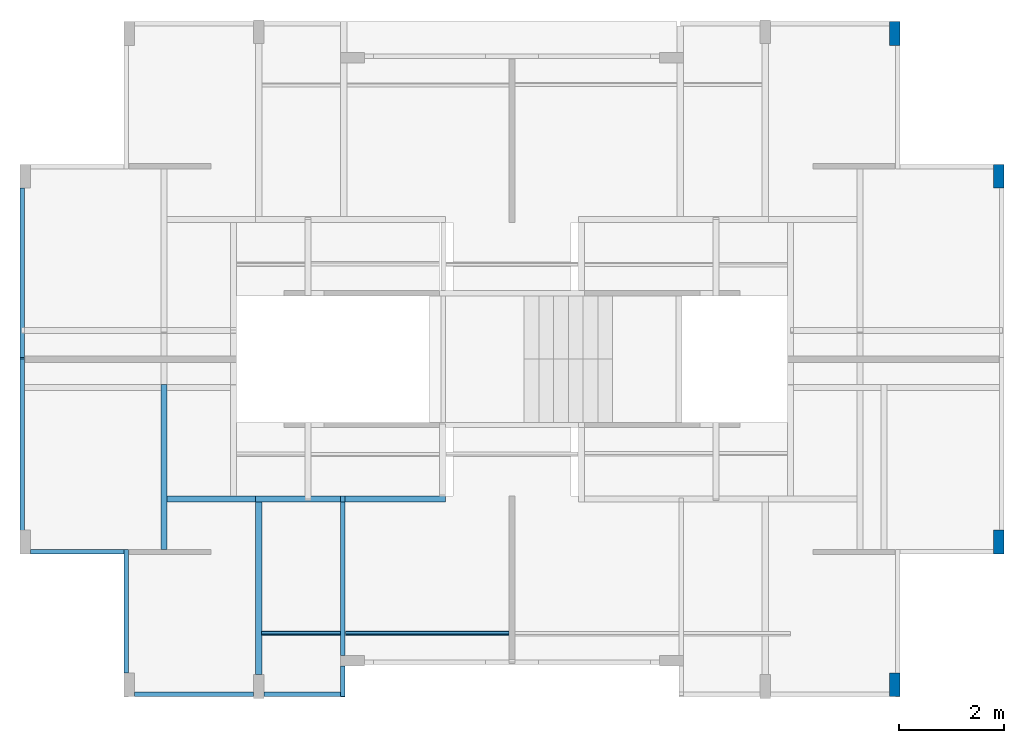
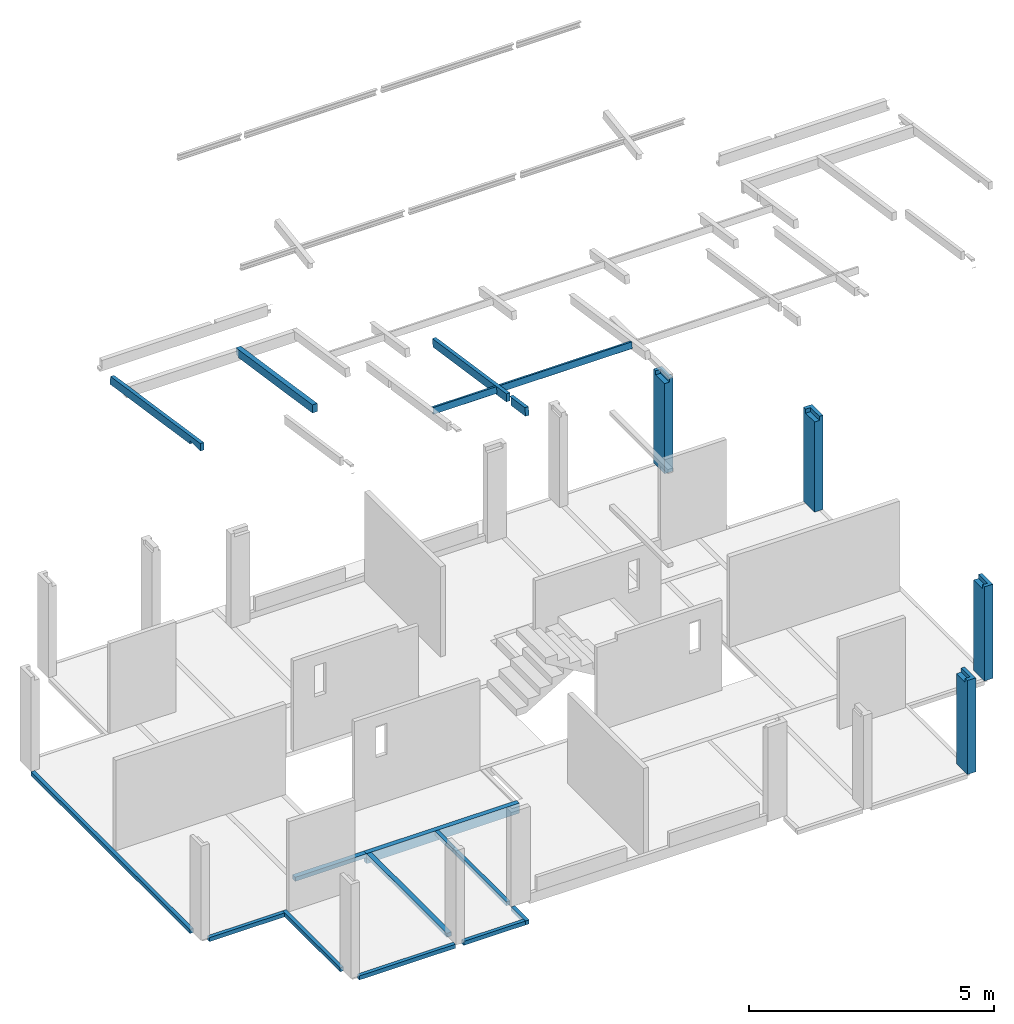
# One storey, part 1 of 9: 13 beams, 4 columns.
"""IFC4 building model written with IfcOpenShell, lengths in metres."""

from ifc_helpers import new_model, entity, si_unit, converted_unit, derived_unit, direction, frame, origin, place, context, subcontext, project, spatial, line, arc, indexed_curve, outline, extrude, polygons, source, transform, mapped, material, type_object, type_shapes, element, save


model = new_model("IFC4")

# Units and contexts
model_context = context("Model", 3, precision=1e-05, world=origin(), true_north=direction((6.123031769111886e-17, 1.0)))
body_context = subcontext(model_context, "Body", "Model", "MODEL_VIEW")
ifc_project = project(units=[si_unit("LENGTHUNIT", "METRE"), si_unit("AREAUNIT", "SQUARE_METRE"), si_unit("VOLUMEUNIT", "CUBIC_METRE"), converted_unit("PLANEANGLEUNIT", "DEGREE", entity("IfcRatioMeasure", 0.017453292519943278), si_unit("PLANEANGLEUNIT", "RADIAN"), dimensions=[0, 0, 0, 0, 0, 0, 0]), si_unit("MASSUNIT", "GRAM", prefix="KILO"), derived_unit("MASSDENSITYUNIT", [(si_unit("MASSUNIT", "GRAM", prefix="KILO"), 1), (si_unit("LENGTHUNIT", "METRE"), -3)]), derived_unit("IONCONCENTRATIONUNIT", [(si_unit("MASSUNIT", "GRAM", prefix="KILO"), 1), (si_unit("LENGTHUNIT", "METRE"), -3)]), derived_unit("MOMENTOFINERTIAUNIT", [(si_unit("LENGTHUNIT", "METRE"), 4)]), si_unit("TIMEUNIT", "SECOND"), si_unit("FREQUENCYUNIT", "HERTZ"), si_unit("THERMODYNAMICTEMPERATUREUNIT", "DEGREE_CELSIUS"), derived_unit("THERMALTRANSMITTANCEUNIT", [(si_unit("MASSUNIT", "GRAM", prefix="KILO"), 1), (si_unit("THERMODYNAMICTEMPERATUREUNIT", "KELVIN"), -1), (si_unit("TIMEUNIT", "SECOND"), -3)]), derived_unit("THERMALCONDUCTANCEUNIT", [(si_unit("MASSUNIT", "GRAM", prefix="KILO"), 1), (si_unit("THERMODYNAMICTEMPERATUREUNIT", "KELVIN"), -1), (si_unit("TIMEUNIT", "SECOND"), -3), (si_unit("LENGTHUNIT", "METRE"), 1)]), derived_unit("VOLUMETRICFLOWRATEUNIT", [(si_unit("LENGTHUNIT", "METRE"), 3), (si_unit("TIMEUNIT", "SECOND"), -1)]), derived_unit("MASSFLOWRATEUNIT", [(si_unit("MASSUNIT", "GRAM", prefix="KILO"), 1), (si_unit("TIMEUNIT", "SECOND"), -1)]), derived_unit("ROTATIONALFREQUENCYUNIT", [(si_unit("TIMEUNIT", "SECOND"), -1)]), si_unit("ELECTRICCURRENTUNIT", "AMPERE"), si_unit("ELECTRICVOLTAGEUNIT", "VOLT"), si_unit("POWERUNIT", "WATT"), si_unit("FORCEUNIT", "NEWTON", prefix="KILO"), si_unit("ILLUMINANCEUNIT", "LUX"), si_unit("LUMINOUSFLUXUNIT", "LUMEN"), si_unit("LUMINOUSINTENSITYUNIT", "CANDELA"), derived_unit("USERDEFINED", [(si_unit("MASSUNIT", "GRAM", prefix="KILO"), -1), (si_unit("LENGTHUNIT", "METRE"), -2), (si_unit("TIMEUNIT", "SECOND"), 3), (si_unit("LUMINOUSFLUXUNIT", "LUMEN"), 1)]), derived_unit("USERDEFINED", [(si_unit("MASSUNIT", "GRAM", prefix="KILO"), 1), (si_unit("TIMEUNIT", "SECOND"), -3), (si_unit("LENGTHUNIT", "METRE"), 3), (si_unit("ELECTRICCURRENTUNIT", "AMPERE"), -2)]), derived_unit("SOUNDPOWERUNIT", [(si_unit("MASSUNIT", "GRAM", prefix="KILO"), 1), (si_unit("TIMEUNIT", "SECOND"), -3), (si_unit("LENGTHUNIT", "METRE"), 2)]), derived_unit("SOUNDPRESSUREUNIT", [(si_unit("MASSUNIT", "GRAM", prefix="KILO"), 1), (si_unit("LENGTHUNIT", "METRE"), -1), (si_unit("TIMEUNIT", "SECOND"), -2)]), derived_unit("LINEARVELOCITYUNIT", [(si_unit("LENGTHUNIT", "METRE"), 1), (si_unit("TIMEUNIT", "SECOND"), -1)]), si_unit("PRESSUREUNIT", "PASCAL"), derived_unit("USERDEFINED", [(si_unit("MASSUNIT", "GRAM", prefix="KILO"), 1), (si_unit("LENGTHUNIT", "METRE"), -2), (si_unit("TIMEUNIT", "SECOND"), -2)]), derived_unit("LINEARFORCEUNIT", [(si_unit("MASSUNIT", "GRAM", prefix="KILO"), 1), (si_unit("TIMEUNIT", "SECOND"), -2)]), derived_unit("PLANARFORCEUNIT", [(si_unit("MASSUNIT", "GRAM", prefix="KILO"), 1), (si_unit("LENGTHUNIT", "METRE"), -1), (si_unit("TIMEUNIT", "SECOND"), -2)]), derived_unit("SPECIFICHEATCAPACITYUNIT", [(si_unit("THERMODYNAMICTEMPERATUREUNIT", "KELVIN"), -1), (si_unit("LENGTHUNIT", "METRE"), 2), (si_unit("TIMEUNIT", "SECOND"), -2)]), derived_unit("HEATINGVALUEUNIT", [(si_unit("LENGTHUNIT", "METRE"), 2), (si_unit("TIMEUNIT", "SECOND"), -2)]), derived_unit("VAPORPERMEABILITYUNIT", [(si_unit("LENGTHUNIT", "METRE"), -1), (si_unit("TIMEUNIT", "SECOND"), 1)]), derived_unit("DYNAMICVISCOSITYUNIT", [(si_unit("MASSUNIT", "GRAM", prefix="KILO"), 1), (si_unit("TIMEUNIT", "SECOND"), -1), (si_unit("LENGTHUNIT", "METRE"), -1)]), derived_unit("THERMALEXPANSIONCOEFFICIENTUNIT", [(si_unit("THERMODYNAMICTEMPERATUREUNIT", "KELVIN"), -1)]), derived_unit("MODULUSOFELASTICITYUNIT", [(si_unit("MASSUNIT", "GRAM", prefix="KILO"), 1), (si_unit("LENGTHUNIT", "METRE"), -1), (si_unit("TIMEUNIT", "SECOND"), -2)]), derived_unit("ISOTHERMALMOISTURECAPACITYUNIT", [(si_unit("LENGTHUNIT", "METRE"), 3), (si_unit("MASSUNIT", "GRAM", prefix="KILO"), -1)]), derived_unit("MOISTUREDIFFUSIVITYUNIT", [(si_unit("TIMEUNIT", "SECOND"), -1), (si_unit("LENGTHUNIT", "METRE"), 2)])], contexts=[model_context])

# Site, building, storey
site_placement = place(None, origin())
site = spatial("IfcSite", under=ifc_project, at=site_placement, Name="Default", CompositionType="ELEMENT")
building_placement = place(site_placement, origin())
building = spatial("IfcBuilding", under=site, at=building_placement, Name="Las nubes", CompositionType="ELEMENT")
storey_placement = place(building_placement, frame((0.0, 0.0, 2.3500000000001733)))
storey = spatial("IfcBuildingStorey", under=building, at=storey_placement, Name="PISO 2", CompositionType="ELEMENT", Elevation=2.3500000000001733)

# Columns
ifc_material_1 = material(Name="Concrete, Cast-in-Place gray", Category="Materials")
column_type_1 = type_object("IfcColumnType", Name="M_Concrete-Rectangular-Column:300 x 450mm", PredefinedType="COLUMN", material=ifc_material_1)
shared_shape_1 = source(origin(), body_context, "Body", "Tessellation", [
    polygons([(-2.1657342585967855e-15, 5.414335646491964e-16, -5.414335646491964e-16), (-2.1657342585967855e-15, 0.45000000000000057, -5.414335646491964e-16), (0.19999999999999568, 0.45000000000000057, -5.414335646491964e-16), (0.19999999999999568, 5.414335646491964e-16, -5.414335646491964e-16), (-2.1657342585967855e-15, 5.414335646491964e-16, 2.2500000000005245), (-2.1657342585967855e-15, 0.36499999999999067, 2.2500000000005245), (-2.1657342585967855e-15, 0.36499999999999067, 2.350000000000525), (-2.1657342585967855e-15, 0.45000000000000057, 2.350000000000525), (0.19999999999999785, 5.414335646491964e-16, 2.2500000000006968), (0.19999999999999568, 5.414335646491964e-16, 2.350000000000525), (0.11499999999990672, 5.414335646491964e-16, 2.350000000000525), (0.11499999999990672, 5.414335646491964e-16, 2.2500000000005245), (0.19999999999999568, 0.45000000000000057, 2.350000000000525), (0.11499999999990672, 0.36499999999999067, 2.350000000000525), (0.11499999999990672, 0.36499999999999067, 2.2500000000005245)], [[[1, 2, 3, 4]], [[2, 1, 5, 6, 7, 8]], [[1, 4, 9, 10, 11, 12, 5]], [[4, 3, 13, 10, 9]], [[3, 2, 8, 13]], [[10, 13, 8, 7, 14, 11]], [[12, 15, 6, 5]], [[14, 15, 12, 11]], [[15, 14, 7, 6]]], closed=True),
])
type_shapes(column_type_1, [shared_shape_1])
column_1_placement = place(storey_placement, frame((18.472500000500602, -3.175000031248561, 0.0)))
element("IfcColumn", 1, at=column_1_placement, inside=storey, type_object=column_type_1, material=ifc_material_1, Name="M_Concrete-Rectangular-Column:300 x 450mm", ObjectType="M_Concrete-Rectangular-Column:300 x 450mm", PredefinedType="COLUMN", context=body_context, shape_type="MappedRepresentation", body=[
    mapped(shared_shape_1, transform((0.0, 0.0, 0.0), scale=1.0)),
])
column_type_2 = type_object("IfcColumnType", Name="M_Concrete-Rectangular-Column:300 x 450mm", PredefinedType="COLUMN", material=ifc_material_1)
shared_shape_2 = source(origin(), body_context, "Body", "Tessellation", [
    polygons([(0.0, 0.0, -5.414335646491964e-16), (0.0, 0.45, -5.414335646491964e-16), (0.2, 0.45, -5.414335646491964e-16), (0.2, 0.0, -5.414335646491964e-16), (0.0, 0.0, 2.2500000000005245), (0.0, 0.3649999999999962, 2.2500000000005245), (0.0, 0.36499999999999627, 2.350000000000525), (0.0, 0.45, 2.350000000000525), (0.2, 0.0, 2.2500000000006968), (0.2, 0.0, 2.350000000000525), (0.11499999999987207, 0.0, 2.350000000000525), (0.11499999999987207, 0.0, 2.2500000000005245), (0.2, 0.45, 2.350000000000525), (0.11499999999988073, 0.3649999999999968, 2.350000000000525), (0.11499999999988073, 0.3649999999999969, 2.2500000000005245)], [[[1, 2, 3, 4]], [[2, 1, 5, 6, 7, 8]], [[1, 4, 9, 10, 11, 12, 5]], [[4, 3, 13, 10, 9]], [[3, 2, 8, 13]], [[10, 13, 8, 7, 14, 11]], [[15, 6, 5, 12]], [[15, 14, 7, 6]], [[14, 15, 12, 11]]], closed=True),
])
type_shapes(column_type_2, [shared_shape_2])
column_2_placement = place(storey_placement, frame((16.497500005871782, -0.46000002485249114, 0.0)))
element("IfcColumn", 2, at=column_2_placement, inside=storey, type_object=column_type_2, material=ifc_material_1, Name="M_Concrete-Rectangular-Column:300 x 450mm", ObjectType="M_Concrete-Rectangular-Column:300 x 450mm", PredefinedType="COLUMN", context=body_context, shape_type="MappedRepresentation", body=[
    mapped(shared_shape_2, transform((0.0, 0.0, 0.0), scale=1.0)),
])
column_type_3 = type_object("IfcColumnType", Name="M_Concrete-Rectangular-Column:300 x 450mm", PredefinedType="COLUMN", material=ifc_material_1)
shared_shape_3 = source(origin(), body_context, "Body", "Tessellation", [
    polygons([(2.1657342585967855e-15, 2.1657342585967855e-15, -5.414335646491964e-16), (6.497202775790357e-15, 0.4500000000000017, -5.414335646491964e-16), (0.20000000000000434, 0.45000000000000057, -5.414335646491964e-16), (0.20000000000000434, 0.0, -5.414335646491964e-16), (2.1657342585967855e-15, 2.1657342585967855e-15, 2.350000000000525), (2.1657342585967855e-15, 0.08500000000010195, 2.350000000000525), (2.1657342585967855e-15, 0.08500000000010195, 2.2500000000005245), (6.497202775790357e-15, 0.4500000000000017, 2.2500000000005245), (0.11499999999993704, 0.4500000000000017, 2.2500000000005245), (0.11499999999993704, 0.4500000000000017, 2.350000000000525), (0.2000000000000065, 0.4499999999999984, 2.350000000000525), (0.2000000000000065, 0.45000000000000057, 2.2500000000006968), (0.20000000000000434, 0.0, 2.350000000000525), (0.11499999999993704, 0.08500000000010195, 2.350000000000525), (0.11499999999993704, 0.08500000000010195, 2.2500000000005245)], [[[1, 2, 3, 4]], [[2, 1, 5, 6, 7, 8]], [[3, 2, 8, 9, 10, 11, 12]], [[4, 3, 12, 11, 13]], [[1, 4, 13, 5]], [[13, 11, 10, 14, 6, 5]], [[7, 15, 9, 8]], [[14, 15, 7, 6]], [[15, 14, 10, 9]]], closed=True),
])
type_shapes(column_type_3, [shared_shape_3])
column_3_placement = place(storey_placement, frame((18.472500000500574, -10.125000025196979, 0.0)))
element("IfcColumn", 3, at=column_3_placement, inside=storey, type_object=column_type_3, material=ifc_material_1, Name="M_Concrete-Rectangular-Column:300 x 450mm", ObjectType="M_Concrete-Rectangular-Column:300 x 450mm", PredefinedType="COLUMN", context=body_context, shape_type="MappedRepresentation", body=[
    mapped(shared_shape_3, transform((0.0, 0.0, 0.0), scale=1.0)),
])
column_type_4 = type_object("IfcColumnType", Name="M_Concrete-Rectangular-Column:300 x 450mm", PredefinedType="COLUMN", material=ifc_material_1)
shared_shape_4 = source(origin(), body_context, "Body", "Tessellation", [
    polygons([(0.0, 0.0, -5.414335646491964e-16), (2.1657342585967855e-15, 0.4499999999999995, -5.414335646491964e-16), (0.20000000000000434, 0.4499999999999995, -5.414335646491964e-16), (0.2, -2.1657342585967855e-15, -5.414335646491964e-16), (0.0, 0.0, 2.350000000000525), (0.0, 0.08500000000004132, 2.350000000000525), (2.1657342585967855e-15, 0.08500000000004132, 2.2500000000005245), (6.497202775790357e-15, 0.4499999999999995, 2.2500000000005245), (0.11499999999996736, 0.4499999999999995, 2.2500000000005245), (0.11499999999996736, 0.4499999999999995, 2.350000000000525), (0.2, 0.44999999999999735, 2.350000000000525), (0.20000000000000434, 0.4499999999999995, 2.2500000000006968), (0.2, -2.1657342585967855e-15, 2.350000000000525), (0.11499999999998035, 0.08500000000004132, 2.350000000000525), (0.11499999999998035, 0.08500000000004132, 2.2500000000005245)], [[[1, 2, 3, 4]], [[2, 1, 5, 6, 7, 8]], [[3, 2, 8, 9, 10, 11, 12]], [[4, 3, 12, 11, 13]], [[1, 4, 13, 5]], [[13, 11, 10, 14, 6, 5]], [[15, 9, 8, 7]], [[14, 15, 7, 6]], [[15, 14, 10, 9]]], closed=True),
])
type_shapes(column_type_4, [shared_shape_4])
column_4_placement = place(storey_placement, frame((16.497500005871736, -12.84000003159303, 0.0)))
element("IfcColumn", 4, at=column_4_placement, inside=storey, type_object=column_type_4, material=ifc_material_1, Name="M_Concrete-Rectangular-Column:300 x 450mm", ObjectType="M_Concrete-Rectangular-Column:300 x 450mm", PredefinedType="COLUMN", context=body_context, shape_type="MappedRepresentation", body=[
    mapped(shared_shape_4, transform((0.0, 0.0, 0.0), scale=1.0)),
])

# Beams
ifc_material_2 = material(Name="Concrete, Cast In Situ", Category="Materials")
beam_type_1 = type_object("IfcBeamType", Name="M_Concrete-Rectangular Beam:(0.085x0.10)", PredefinedType="BEAM", material=ifc_material_2)
shared_shape_5 = source(origin(), body_context, "Body", "SweptSolid", [
    extrude(outline(indexed_curve([(-0.04250000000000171, -0.05), (0.04250000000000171, -0.05), (0.04250000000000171, 0.05), (-0.04250000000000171, 0.05), (-0.04250000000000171, -0.05)], self_intersect=False)), frame((1.9899999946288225, -12.390000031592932, 2.3000000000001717), z_axis=(0.0, 1.0, 0.0), x_axis=(-1.0, 0.0, 0.0)), (0.0, 0.0, 1.0), 2.3500051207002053),
])
type_shapes(beam_type_1, [shared_shape_5])
beam_1_placement = place(storey_placement, frame((0.0, 0.0, -2.3500000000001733)))
element("IfcBeam", 5, at=beam_1_placement, inside=storey, type_object=beam_type_1, material=ifc_material_2, Name="M_Concrete-Rectangular Beam:(0.085x0.10)", ObjectType="M_Concrete-Rectangular Beam:(0.085x0.10)", PredefinedType="BEAM", context=body_context, shape_type="MappedRepresentation", body=[
    mapped(shared_shape_5, transform((0.0, 0.0, 0.0), scale=1.0)),
])
beam_type_2 = type_object("IfcBeamType", Name="M_Concrete-Rectangular Beam:(0.085x0.10)", PredefinedType="BEAM", material=ifc_material_2)
shared_shape_6 = source(origin(), body_context, "Body", "SweptSolid", [
    extrude(outline(indexed_curve([(-0.050000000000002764, -0.04249999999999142), (0.04999999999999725, -0.042500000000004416), (0.050000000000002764, 0.04249999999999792), (-0.04999999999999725, 0.042500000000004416), (-0.050000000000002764, -0.04249999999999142)], self_intersect=False)), frame((1.9474999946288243, -10.082494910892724, 2.3000000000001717), z_axis=(-1.0, 0.0, 0.0), x_axis=(0.0, 0.0, -1.0)), (0.0, 0.0, 1.0), 1.7749999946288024),
])
type_shapes(beam_type_2, [shared_shape_6])
beam_2_placement = place(storey_placement, frame((0.0, 0.0, -2.3500000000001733)))
element("IfcBeam", 6, at=beam_2_placement, inside=storey, type_object=beam_type_2, material=ifc_material_2, Name="M_Concrete-Rectangular Beam:(0.085x0.10)", ObjectType="M_Concrete-Rectangular Beam:(0.085x0.10)", PredefinedType="BEAM", context=body_context, shape_type="MappedRepresentation", body=[
    mapped(shared_shape_6, transform((0.0, 0.0, 0.0), scale=1.0)),
])
beam_type_3 = type_object("IfcBeamType", Name="M_Concrete-Rectangular Beam:(0.085x0.10)", PredefinedType="BEAM", material=ifc_material_2)
shared_shape_7 = source(origin(), body_context, "Body", "SweptSolid", [
    extrude(outline(indexed_curve([(-0.04250000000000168, -0.05), (0.04250000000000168, -0.05), (0.0425000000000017, 0.05), (-0.04250000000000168, 0.05), (-0.04250000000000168, -0.05)], self_intersect=False)), frame((0.01500000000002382, -9.674994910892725, 2.3000000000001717), z_axis=(0.0, 1.0, 0.0), x_axis=(-1.0, 0.0, 0.0)), (0.0, 0.0, 1.0), 6.499994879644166),
])
type_shapes(beam_type_3, [shared_shape_7])
beam_3_placement = place(storey_placement, frame((0.0, 0.0, -2.3500000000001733)))
element("IfcBeam", 7, at=beam_3_placement, inside=storey, type_object=beam_type_3, material=ifc_material_2, Name="M_Concrete-Rectangular Beam:(0.085x0.10)", ObjectType="M_Concrete-Rectangular Beam:(0.085x0.10)", PredefinedType="BEAM", context=body_context, shape_type="MappedRepresentation", body=[
    mapped(shared_shape_7, transform((0.0, 0.0, 0.0), scale=1.0)),
])
beam_type_4 = type_object("IfcBeamType", Name="M_Concrete-Rectangular Beam:(0.115x0.25)", PredefinedType="BEAM", material=ifc_material_2)
shared_shape_8 = source(origin(), body_context, "Body", "SweptSolid", [
    extrude(outline(indexed_curve([(-0.12500000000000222, -0.05749999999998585), (0.12499999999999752, -0.057500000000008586), (0.1250000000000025, 0.05749999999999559), (-0.12499999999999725, 0.05750000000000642), (-0.12500000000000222, -0.05749999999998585)], self_intersect=False)), frame((8.062500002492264, -9.082500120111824, 2.2250000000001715), z_axis=(-1.0, 0.0, 0.0), x_axis=(0.0, 0.0, -1.0)), (0.0, 0.0, 1.0), 3.610000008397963),
])
type_shapes(beam_type_4, [shared_shape_8])
beam_4_placement = place(storey_placement, frame((0.0, 0.0, -2.3500000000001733)))
element("IfcBeam", 8, at=beam_4_placement, inside=storey, type_object=beam_type_4, material=ifc_material_2, Name="M_Concrete-Rectangular Beam:(0.115x0.25)", ObjectType="M_Concrete-Rectangular Beam:(0.115x0.25)", PredefinedType="BEAM", context=body_context, shape_type="MappedRepresentation", body=[
    mapped(shared_shape_8, transform((0.0, 0.0, 0.0), scale=1.0)),
])
beam_type_5 = type_object("IfcBeamType", Name="M_Concrete-Rectangular Beam:(0.115x0.10)", PredefinedType="BEAM", material=ifc_material_2)
shared_shape_9 = source(origin(), body_context, "Body", "SweptSolid", [
    extrude(outline(indexed_curve([(-0.05750000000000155, -0.05), (0.05750000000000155, -0.05), (0.05750000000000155, 0.05), (-0.05750000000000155, 0.05), (-0.05750000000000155, -0.05)], self_intersect=False)), frame((4.509999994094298, -12.42000003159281, 2.3000000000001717), z_axis=(0.0, 1.0, 0.0), x_axis=(-1.0, 0.0, 0.0)), (0.0, 0.0, 1.0), 3.2799999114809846),
])
type_shapes(beam_type_5, [shared_shape_9])
beam_5_placement = place(storey_placement, frame((0.0, 0.0, -2.3500000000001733)))
element("IfcBeam", 9, at=beam_5_placement, inside=storey, type_object=beam_type_5, material=ifc_material_2, Name="M_Concrete-Rectangular Beam:(0.115x0.10)", ObjectType="M_Concrete-Rectangular Beam:(0.115x0.10)", PredefinedType="BEAM", context=body_context, shape_type="MappedRepresentation", body=[
    mapped(shared_shape_9, transform((0.0, 0.0, 0.0), scale=1.0)),
])
beam_type_6 = type_object("IfcBeamType", Name="M_Concrete-Rectangular Beam:(0.115x0.10)", PredefinedType="BEAM", material=ifc_material_2)
shared_shape_10 = source(origin(), body_context, "Body", "SweptSolid", [
    extrude(outline(indexed_curve([(-0.05000000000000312, -0.057499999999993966), (0.049999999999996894, -0.05750000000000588), (0.05000000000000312, 0.0574999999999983), (-0.049999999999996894, 0.057500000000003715), (-0.05000000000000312, -0.057499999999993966)], self_intersect=False)), frame((4.4524999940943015, -9.082499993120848, 2.3000000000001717), z_axis=(-1.0, 0.0, 0.0), x_axis=(0.0, 0.0, -1.0)), (0.0, 0.0, 1.0), 1.6849989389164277),
])
type_shapes(beam_type_6, [shared_shape_10])
beam_6_placement = place(storey_placement, frame((0.0, 0.0, -2.3500000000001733)))
element("IfcBeam", 10, at=beam_6_placement, inside=storey, type_object=beam_type_6, material=ifc_material_2, Name="M_Concrete-Rectangular Beam:(0.115x0.10)", ObjectType="M_Concrete-Rectangular Beam:(0.115x0.10)", PredefinedType="BEAM", context=body_context, shape_type="MappedRepresentation", body=[
    mapped(shared_shape_10, transform((0.0, 0.0, 0.0), scale=1.0)),
])
beam_type_7 = type_object("IfcBeamType", Name="M_Concrete-Rectangular Beam:(0.085x0.10)", PredefinedType="BEAM", material=ifc_material_2)
shared_shape_11 = source(origin(), body_context, "Body", "SweptSolid", [
    extrude(outline(indexed_curve([(-0.04250000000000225, -0.05), (0.04250000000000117, -0.05), (0.04250000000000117, 0.05), (-0.04250000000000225, 0.05), (-0.04250000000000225, -0.05)], self_intersect=False)), frame((6.1099999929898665, -12.055000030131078, 2.3000000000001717), z_axis=(0.0, 1.0, 0.0), x_axis=(-1.0, 0.0, 0.0)), (0.0, 0.0, 1.0), 2.9149999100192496),
    extrude(outline(indexed_curve([(-0.04250000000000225, -0.05), (0.04250000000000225, -0.05), (0.04250000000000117, 0.05), (-0.04250000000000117, 0.05), (-0.04250000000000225, -0.05)], self_intersect=False)), frame((6.109999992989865, -12.840000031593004, 2.3000000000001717), z_axis=(0.0, 1.0, 0.0), x_axis=(-1.0, 0.0, 0.0)), (0.0, 0.0, 1.0), 0.585000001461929),
])
type_shapes(beam_type_7, [shared_shape_11])
beam_7_placement = place(storey_placement, frame((0.0, 0.0, -2.3500000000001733)))
element("IfcBeam", 11, at=beam_7_placement, inside=storey, type_object=beam_type_7, material=ifc_material_2, Name="M_Concrete-Rectangular Beam:(0.085x0.10)", ObjectType="M_Concrete-Rectangular Beam:(0.085x0.10)", PredefinedType="BEAM", context=body_context, shape_type="MappedRepresentation", body=[
    mapped(shared_shape_11, transform((0.0, 0.0, 0.0), scale=1.0)),
])
beam_type_8 = type_object("IfcBeamType", Name="M_Concrete-Rectangular Beam:(0.085x0.10)", PredefinedType="BEAM", material=ifc_material_2)
shared_shape_12 = source(origin(), body_context, "Body", "SweptSolid", [
    extrude(outline(indexed_curve([(-0.050000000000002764, -0.04249999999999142), (0.04999999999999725, -0.042500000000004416), (0.050000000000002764, 0.04249999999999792), (-0.04999999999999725, 0.042500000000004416), (-0.050000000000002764, -0.04249999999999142)], self_intersect=False)), frame((4.4099999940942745, -12.797500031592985, 2.3000000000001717), z_axis=(-1.0, 0.0, 0.0), x_axis=(0.0, 0.0, -1.0)), (0.0, 0.0, 1.0), 2.262499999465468),
    extrude(outline(indexed_curve([(-0.05000000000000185, -0.04249999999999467), (0.04999999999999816, -0.042500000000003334), (0.05000000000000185, 0.042499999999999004), (-0.04999999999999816, 0.042500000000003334), (-0.05000000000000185, -0.04249999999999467)], self_intersect=False)), frame((6.06749999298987, -12.797500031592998, 2.3000000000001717), z_axis=(-1.0, 0.0, 0.0), x_axis=(0.0, 0.0, -1.0)), (0.0, 0.0, 1.0), 1.4574999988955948),
])
type_shapes(beam_type_8, [shared_shape_12])
beam_8_placement = place(storey_placement, frame((0.0, 0.0, -2.3500000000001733)))
element("IfcBeam", 12, at=beam_8_placement, inside=storey, type_object=beam_type_8, material=ifc_material_2, Name="M_Concrete-Rectangular Beam:(0.085x0.10)", ObjectType="M_Concrete-Rectangular Beam:(0.085x0.10)", PredefinedType="BEAM", context=body_context, shape_type="MappedRepresentation", body=[
    mapped(shared_shape_12, transform((0.0, 0.0, 0.0), scale=1.0)),
])
beam_type_9 = type_object("IfcBeamType", Name="M_Concrete-Rectangular Beam:(0.085x0.20)", PredefinedType="BEAM", material=ifc_material_2)
shared_shape_13 = source(origin(), body_context, "Body", "SweptSolid", [
    extrude(outline(indexed_curve([(-0.3825414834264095, -1.7017967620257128), (-0.19554148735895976, -1.7017967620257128), (-0.19554148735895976, -1.2792967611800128), (-0.11692899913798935, -1.2792967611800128), (0.3740359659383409, 1.9938030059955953), (0.34818397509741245, 1.9976808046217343), (0.16833351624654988, 1.9707032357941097), (-0.3825414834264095, -1.7017967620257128)], self_intersect=False)), frame((-0.027499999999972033, -8.395703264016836, 14.354458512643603), z_axis=(1.0, 0.0, 0.0), x_axis=(0.0, 0.0, -1.0)), (0.0, 0.0, 1.0), 0.08500000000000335),
])
type_shapes(beam_type_9, [shared_shape_13])
beam_9_placement = place(storey_placement, frame((0.0, 0.0, -2.3500000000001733)))
element("IfcBeam", 13, at=beam_9_placement, inside=storey, type_object=beam_type_9, material=ifc_material_2, Name="M_Concrete-Rectangular Beam:(0.085x0.20)", ObjectType="M_Concrete-Rectangular Beam:(0.085x0.20)", PredefinedType="BEAM", context=body_context, shape_type="MappedRepresentation", body=[
    mapped(shared_shape_13, transform((0.0, 0.0, 0.0), scale=1.0)),
])
beam_type_10 = type_object("IfcBeamType", Name="M_Concrete-Rectangular Beam:(0.115x0.20)", PredefinedType="BEAM", material=ifc_material_2)
shared_shape_14 = source(origin(), body_context, "Body", "SweptSolid", [
    extrude(outline(indexed_curve([(-0.4441078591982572, -2.4056212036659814), (-0.24187037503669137, -2.4056212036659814), (0.2103796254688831, 0.6093787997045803), (0.1842671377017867, 0.6093787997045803), (0.1842671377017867, 0.7015192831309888), (0.031870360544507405, 0.7243787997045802), (0.025534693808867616, 0.725329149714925), (0.02539214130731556, 0.7243787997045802), (0.024267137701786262, 0.7168787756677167), (-0.4441078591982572, -2.4056212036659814)], self_intersect=False)), frame((2.6525010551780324, -7.634378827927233, 14.28426713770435), z_axis=(1.0, 0.0, 0.0), x_axis=(0.0, 0.0, -1.0)), (0.0, 0.0, 1.0), 0.11500000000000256),
])
type_shapes(beam_type_10, [shared_shape_14])
beam_10_placement = place(storey_placement, frame((0.0, 0.0, -2.3500000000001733)))
element("IfcBeam", 14, at=beam_10_placement, inside=storey, type_object=beam_type_10, material=ifc_material_2, Name="M_Concrete-Rectangular Beam:(0.115x0.20)", ObjectType="M_Concrete-Rectangular Beam:(0.115x0.20)", PredefinedType="BEAM", context=body_context, shape_type="MappedRepresentation", body=[
    mapped(shared_shape_14, transform((0.0, 0.0, 0.0), scale=1.0)),
])
beam_type_11 = type_object("IfcBeamType", Name="M_Concrete-Rectangular Beam:(0.085x0.20)", PredefinedType="BEAM", material=ifc_material_2)
shared_shape_15 = source(origin(), body_context, "Body", "SweptSolid", [
    extrude(outline(indexed_curve([(-1.235782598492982, -0.11999999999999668), (1.8263921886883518, -0.11999999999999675), (1.7963921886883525, 0.08000000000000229), (-1.1512191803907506, 0.08000000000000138), (-1.2357825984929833, 0.08000000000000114), (-1.235782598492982, -0.11999999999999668)], self_intersect=False)), frame((6.0674999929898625, -10.266615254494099, 14.641024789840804), z_axis=(1.0, 0.0, 0.0), x_axis=(0.0, -0.988936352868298, 0.1483404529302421)), (0.0, 0.0, 1.0), 0.08500000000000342),
    extrude(outline(indexed_curve([(-0.3588825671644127, -0.11789851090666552), (0.23485442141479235, -0.1178985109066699), (0.20643053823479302, 0.07159404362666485), (0.27648017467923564, 0.08210148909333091), (-0.35888256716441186, 0.08210148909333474), (-0.3588825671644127, -0.11789851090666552)], self_intersect=False)), frame((6.06749999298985, -12.469766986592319, 15.009820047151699), z_axis=(1.0, 0.0, 0.0), x_axis=(0.0, 0.9889363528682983, -0.14834045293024)), (0.0, 0.0, 1.0), 0.0850000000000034),
])
type_shapes(beam_type_11, [shared_shape_15])
beam_11_placement = place(storey_placement, frame((0.0, 0.0, -2.3500000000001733)))
element("IfcBeam", 15, at=beam_11_placement, inside=storey, type_object=beam_type_11, material=ifc_material_2, Name="M_Concrete-Rectangular Beam:(0.085x0.20)", ObjectType="M_Concrete-Rectangular Beam:(0.085x0.20)", PredefinedType="BEAM", context=body_context, shape_type="MappedRepresentation", body=[
    mapped(shared_shape_15, transform((0.0, 0.0, 0.0), scale=1.0)),
])
ifc_material_3 = material(Name="Steel - 300+", Category="Materials")
beam_type_12 = type_object("IfcBeamType", Name="AUS-C Purlin:CR-1", PredefinedType="BEAM", material=ifc_material_3)
shared_shape_16 = source(origin(), body_context, "Body", "SweptSolid", [
    extrude(outline(indexed_curve([(-0.07614999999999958, -0.023850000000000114), (-0.05965000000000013, -0.023850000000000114), (-0.05965000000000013, -0.02185000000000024), (-0.07615000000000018, -0.02185000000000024), (-0.07721066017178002, -0.021410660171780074), (-0.0776500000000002, -0.020350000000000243), (-0.07765000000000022, 0.03265000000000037), (-0.07721066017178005, 0.033710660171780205), (-0.07615000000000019, 0.03415000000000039), (0.07334999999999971, 0.03415000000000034), (0.07688553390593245, 0.03268553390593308), (0.07834999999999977, 0.029150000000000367), (0.07834999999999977, -0.02035000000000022), (0.07791066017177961, -0.021410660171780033), (0.07684999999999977, -0.02185000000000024), (0.060349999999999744, -0.02185000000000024), (0.060349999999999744, -0.023850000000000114), (0.07685000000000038, -0.023850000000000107), (0.0793248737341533, -0.022824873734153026), (0.0803500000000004, -0.020350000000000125), (0.0803500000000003, 0.029149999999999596), (0.078299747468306, 0.034099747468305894), (0.0733499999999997, 0.03615000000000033), (-0.07614999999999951, 0.036150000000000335), (-0.07862487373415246, 0.03512487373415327), (-0.07964999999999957, 0.032650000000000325), (-0.07964999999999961, -0.020350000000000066), (-0.07862487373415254, -0.02282487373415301)], segments=[line(1, 2, 3, 4), arc(4, 5, 6), line(6, 7), arc(7, 8, 9), line(9, 10), arc(10, 11, 12), line(12, 13), arc(13, 14, 15), line(15, 16, 17, 18), arc(18, 19, 20), line(20, 21), arc(21, 22, 23), line(23, 24), arc(24, 25, 26), line(26, 27), arc(27, 28, 1)], self_intersect=False)), frame((-1.5452046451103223, -0.03415000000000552, 0.0003499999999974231), z_axis=(1.0, 0.0, 0.0), x_axis=(0.0, 0.0, -1.0)), (0.0, 0.0, 1.0), 3.1055007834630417),
])
type_shapes(beam_type_12, [shared_shape_16])
beam_12_placement = place(storey_placement, frame((7.716249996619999, -11.66455748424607, 12.54116362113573), z_axis=(0.0, 0.14834045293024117, 0.9889363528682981), x_axis=(-1.0, 0.0, 0.0)))
element("IfcBeam", 16, at=beam_12_placement, inside=storey, type_object=beam_type_12, material=ifc_material_3, Name="AUS-C Purlin:CR-1", ObjectType="AUS-C Purlin:CR-1", PredefinedType="BEAM", context=body_context, shape_type="MappedRepresentation", body=[
    mapped(shared_shape_16, transform((0.0, 0.0, 0.0), scale=1.0)),
])
beam_type_13 = type_object("IfcBeamType", Name="AUS-C Purlin:CR-1", PredefinedType="BEAM", material=ifc_material_3)
shared_shape_17 = source(origin(), body_context, "Body", "SweptSolid", [
    extrude(outline(indexed_curve([(-0.0761499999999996, -0.023850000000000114), (-0.05965000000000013, -0.023850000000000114), (-0.05965000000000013, -0.02185000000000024), (-0.0761500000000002, -0.02185000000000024), (-0.07721066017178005, -0.021410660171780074), (-0.07765000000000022, -0.020350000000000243), (-0.07765000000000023, 0.03265000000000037), (-0.07721066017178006, 0.033710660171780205), (-0.07615000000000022, 0.03415000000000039), (0.0733499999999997, 0.03415000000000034), (0.07688553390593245, 0.03268553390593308), (0.07834999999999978, 0.029150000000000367), (0.07834999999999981, -0.02035000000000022), (0.07791066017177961, -0.02141066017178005), (0.0768499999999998, -0.02185000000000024), (0.06034999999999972, -0.02185000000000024), (0.06034999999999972, -0.023850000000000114), (0.0768500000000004, -0.023850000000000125), (0.07932487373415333, -0.022824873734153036), (0.08035000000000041, -0.020350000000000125), (0.0803500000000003, 0.029149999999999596), (0.078299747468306, 0.034099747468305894), (0.07334999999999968, 0.03615000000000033), (-0.07614999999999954, 0.036150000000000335), (-0.07862487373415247, 0.03512487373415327), (-0.0796499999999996, 0.032650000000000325), (-0.0796499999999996, -0.020350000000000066), (-0.07862487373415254, -0.022824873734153)], segments=[line(1, 2, 3, 4), arc(4, 5, 6), line(6, 7), arc(7, 8, 9), line(9, 10), arc(10, 11, 12), line(12, 13), arc(13, 14, 15), line(15, 16, 17, 18), arc(18, 19, 20), line(20, 21), arc(21, 22, 23), line(23, 24), arc(24, 25, 26), line(26, 27), arc(27, 28, 1)], self_intersect=False)), frame((-0.7564546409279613, -0.03415000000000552, 0.0003499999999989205), z_axis=(1.0, 0.0, 0.0), x_axis=(0.0, 0.0, -1.0)), (0.0, 0.0, 1.0), 1.4999838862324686),
])
type_shapes(beam_type_13, [shared_shape_17])
beam_13_placement = place(storey_placement, frame((5.3099999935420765, -11.664557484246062, 12.54116362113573), z_axis=(0.0, 0.14834045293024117, 0.9889363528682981), x_axis=(-1.0, 0.0, 0.0)))
element("IfcBeam", 17, at=beam_13_placement, inside=storey, type_object=beam_type_13, material=ifc_material_3, Name="AUS-C Purlin:CR-1", ObjectType="AUS-C Purlin:CR-1", PredefinedType="BEAM", context=body_context, shape_type="MappedRepresentation", body=[
    mapped(shared_shape_17, transform((0.0, 0.0, 0.0), scale=1.0)),
])

save(model, "model.ifc")
